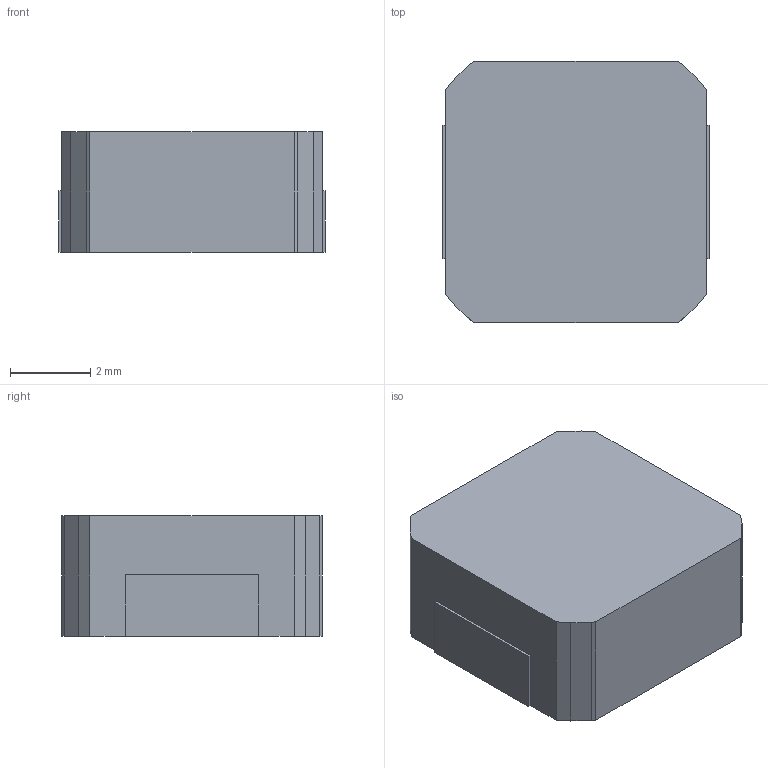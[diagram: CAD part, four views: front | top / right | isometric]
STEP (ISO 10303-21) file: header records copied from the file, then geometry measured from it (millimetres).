
FILE_DESCRIPTION(('FreeCAD Model'),'2;1');
FILE_NAME('Open CASCADE Shape Model','2021-06-28T23:37:32',('Author'),( ''),'Open CASCADE STEP processor 7.5','FreeCAD','Unknown');
FILE_SCHEMA(('AUTOMOTIVE_DESIGN { 1 0 10303 214 1 1 1 1 }'));
Length unit declared in the file: millimetre
Products named in the file (4): RLC; intersection; cube001; cube002
Assembly tree (3 placements, depth 2):
  RLC
    intersection
    cube001
    cube002
Bounding box: 6.63 x 6.5 x 3 mm (x, y, z)
Surface area: 195.6 mm2
Topology: 3 solids, 3 shells, 42 faces, 104 edges, 68 vertices
Faces by surface type: plane 32, bspline 10
Entity records: 2724 total; most frequent: CARTESIAN_POINT 608, DIRECTION 234, ORIENTED_EDGE 208, PCURVE 208, DEFINITIONAL_REPRESENTATION 208, LINE 162, VECTOR 162, B_SPLINE_CURVE_WITH_KNOTS 150
